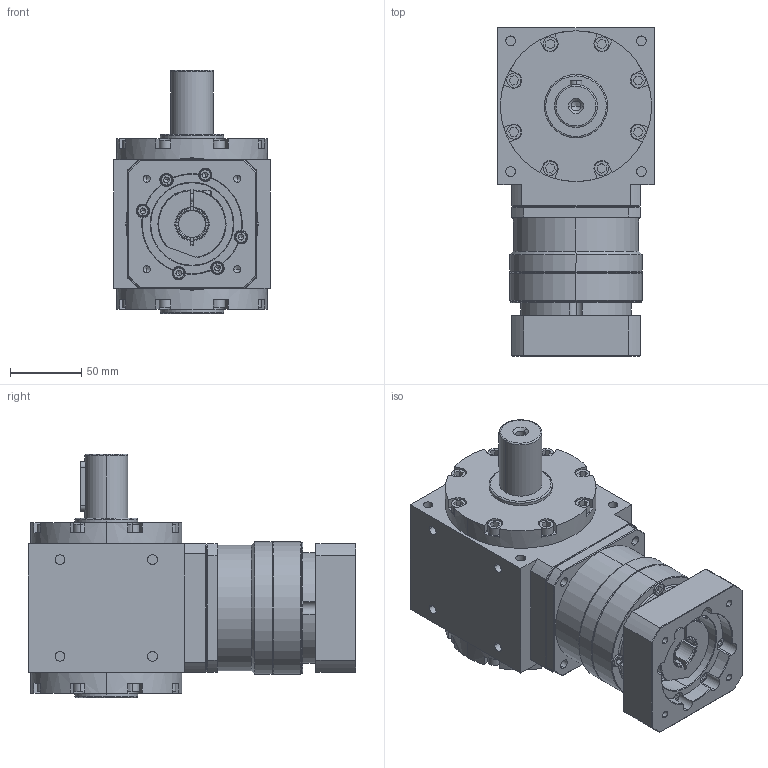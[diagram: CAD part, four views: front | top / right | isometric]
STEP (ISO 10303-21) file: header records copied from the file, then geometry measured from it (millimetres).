
FILE_DESCRIPTION (( 'STEP AP203' ), '1' );
FILE_NAME ('AAW110AS-L1-P 19-70-90-M6.STEP', '2024-12-24T05:19:44', ( '' ), ( '' ), 'SwSTEP 2.0', 'SolidWorks 2021', '' );
FILE_SCHEMA (( 'CONFIG_CONTROL_DESIGN' ));
Length unit declared in the file: millimetre
Products named in the file (3): AAW110AS-P; VRB-090-L1-S2-P1 19-70-90-M6; AAW110AS-L1-P 19-70-90-M6
Assembly tree (2 placements, depth 2):
  AAW110AS-L1-P 19-70-90-M6
    AAW110AS-P
    VRB-090-L1-S2-P1 19-70-90-M6
Bounding box: 110 x 230.5 x 171 mm (x, y, z)
Volume: 2076251.1 mm3; surface area: 208298.1 mm2
Topology: 28 solids, 28 shells, 1070 faces, 2606 edges, 1641 vertices
Faces by surface type: plane 526, cylinder 359, cone 153, torus 26, bspline 6
Entity records: 32555 total; most frequent: CARTESIAN_POINT 6822, DIRECTION 5570, ORIENTED_EDGE 5104, EDGE_CURVE 2552, AXIS2_PLACEMENT_3D 2115, VERTEX_POINT 1641, VECTOR 1340, LINE 1340
